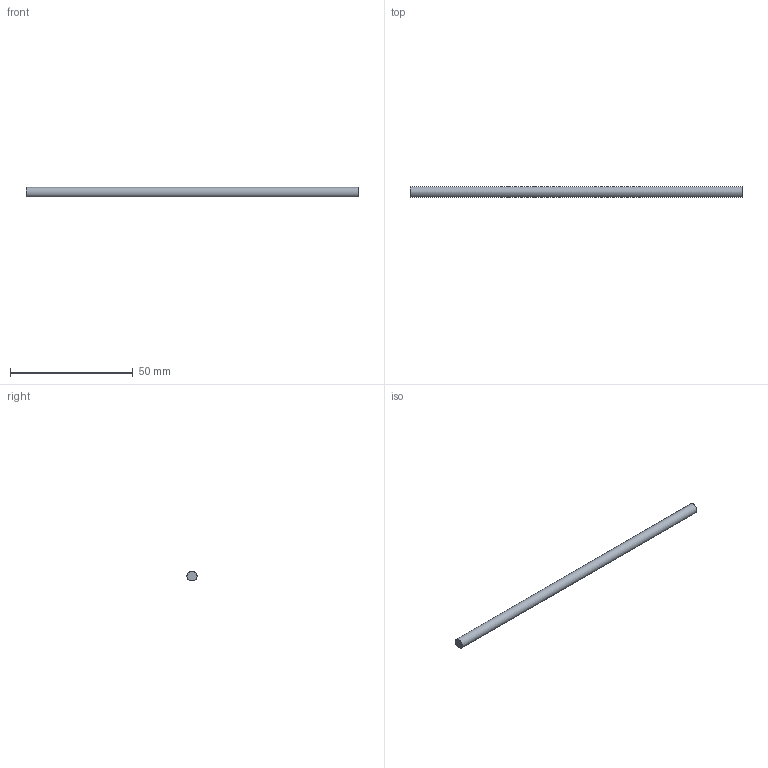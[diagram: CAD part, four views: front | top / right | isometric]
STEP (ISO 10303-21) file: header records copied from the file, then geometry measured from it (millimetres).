
FILE_DESCRIPTION(('Open CASCADE Model'),'2;1');
FILE_NAME('Open CASCADE Shape Model','2026-11-05T10:33:08',('Author'),( 'Open CASCADE'),'Open CASCADE STEP processor 8.0','build123d', 'Unknown');
FILE_SCHEMA(('AUTOMOTIVE_DESIGN { 1 0 10303 214 1 1 1 1 }'));
Length unit declared in the file: millimetre
Products named in the file (1): COMPOUND
Bounding box: 135 x 4.09 x 3.69 mm (x, y, z)
Volume: 1692.9 mm3; surface area: 1740.8 mm2
Topology: 1 solids, 1 shells, 4 faces, 6 edges, 4 vertices
Faces by surface type: plane 3, cylinder 1
Entity records: 172 total; most frequent: CARTESIAN_POINT 35, DIRECTION 22, ORIENTED_EDGE 12, PCURVE 12, DEFINITIONAL_REPRESENTATION 12, B_SPLINE_CURVE_WITH_KNOTS 8, AXIS2_PLACEMENT_3D 7, EDGE_CURVE 6
